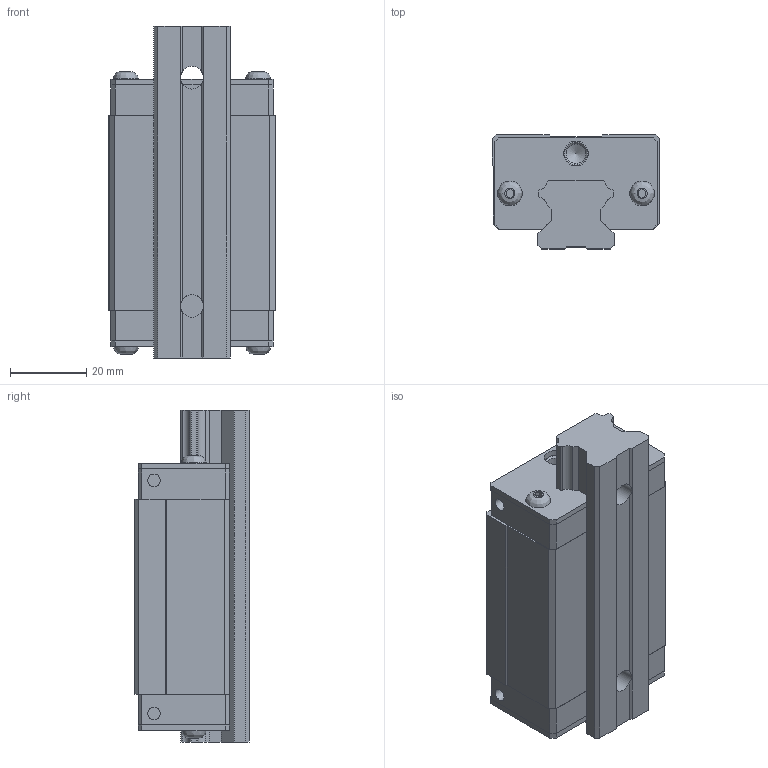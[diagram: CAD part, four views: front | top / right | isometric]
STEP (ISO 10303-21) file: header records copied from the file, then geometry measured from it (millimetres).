
FILE_DESCRIPTION( ( 'STEP AP214' ), '1' );
FILE_NAME( 'D:/濛機/紫賊/螃渦紫賊/BSQ LM BLOCK/賅筐葭/MCH/MCH20N.stp', '2019-09-24T01:00:37', ( ' ' ), ( ' ' ), 'XStep 1.0', 'VISICAD', ' ' );
FILE_SCHEMA( ( 'automotive_design' ) );
Length unit declared in the file: metre
Products named in the file (4): 1; 2; 3; 4
Bounding box: 44 x 30 x 87.3 mm (x, y, z)
Volume: 83531.4 mm3; surface area: 26187.3 mm2
Topology: 4 solids, 4 shells, 242 faces, 625 edges, 411 vertices
Faces by surface type: plane 182, cylinder 44, cone 12, bspline 4
Full cylindrical faces by diameter (mm): 3.25 x4, 3.3 x4, 4.134 x4, 5.188 x2, 6 x2, 6.5 x10, 9.5 x2
Entity records: 9112 total; most frequent: CARTESIAN_POINT 1330, DIRECTION 1162, ORIENTED_EDGE 1140, EDGE_CURVE 570, LINE 462, VECTOR 462, VERTEX_POINT 406, AXIS2_PLACEMENT_3D 350
